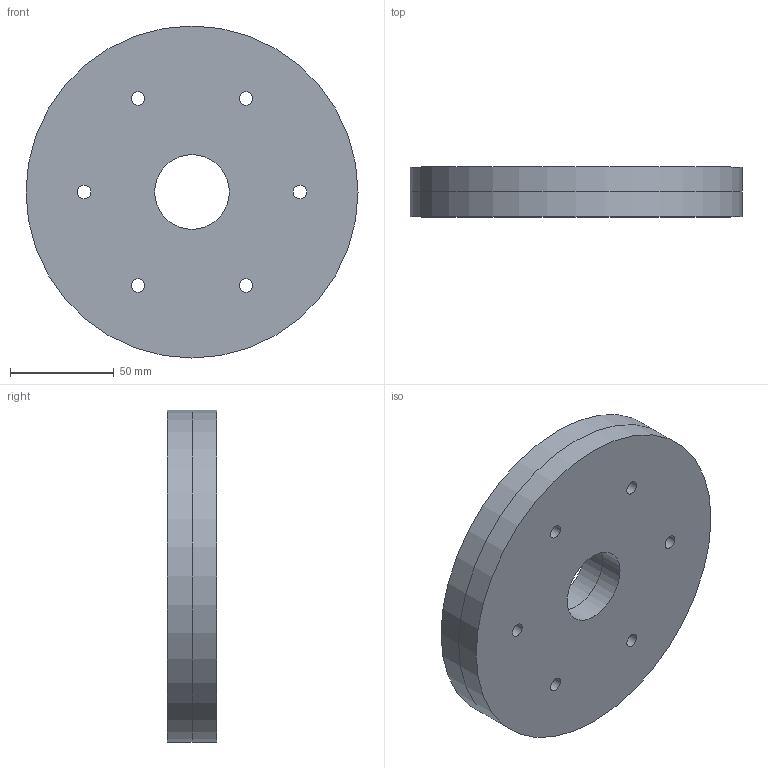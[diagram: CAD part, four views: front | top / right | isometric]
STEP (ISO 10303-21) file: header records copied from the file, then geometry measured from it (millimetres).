
FILE_DESCRIPTION(('Open CASCADE Model'),'2;1');
FILE_NAME('Open CASCADE Shape Model','2026-09-16T16:54:27',('Author'),( 'Open CASCADE'),'Open CASCADE STEP processor 7.8','Open CASCADE 7.8' ,'Unknown');
FILE_SCHEMA(('AUTOMOTIVE_DESIGN { 1 0 10303 214 1 1 1 1 }'));
Length unit declared in the file: millimetre
Products named in the file (1): Open CASCADE STEP translator 7.8 6
Bounding box: 160 x 24 x 160 mm (x, y, z)
Volume: 453193.1 mm3; surface area: 55529.9 mm2
Topology: 1 solids, 1 shells, 18 faces, 40 edges, 24 vertices
Faces by surface type: cylinder 16, plane 2
Full cylindrical faces by diameter (mm): 6.6 x12, 36 x2, 160 x2
Entity records: 1075 total; most frequent: CARTESIAN_POINT 213, DIRECTION 167, ORIENTED_EDGE 80, PCURVE 80, DEFINITIONAL_REPRESENTATION 80, LINE 72, VECTOR 72, AXIS2_PLACEMENT_3D 43
